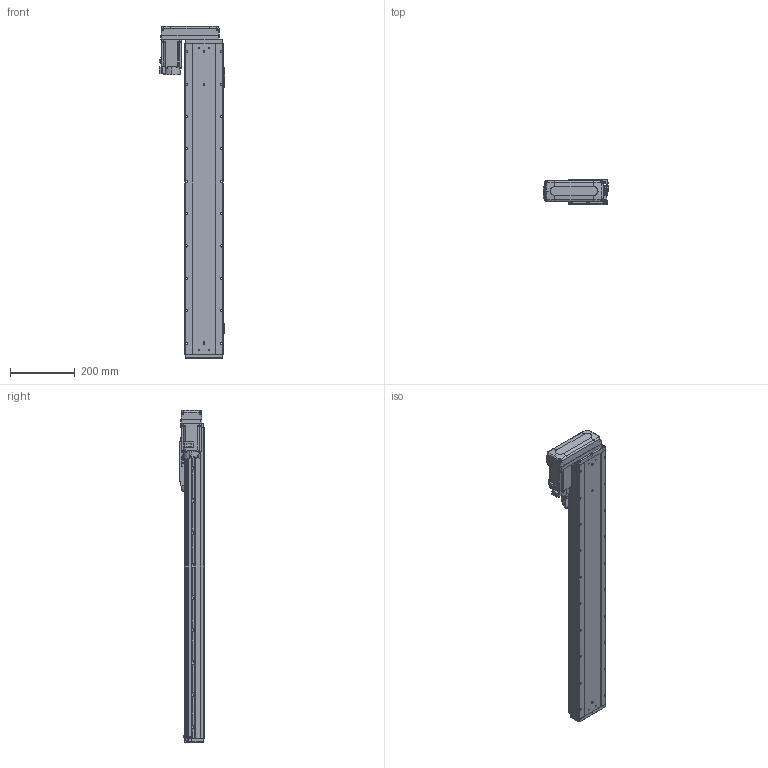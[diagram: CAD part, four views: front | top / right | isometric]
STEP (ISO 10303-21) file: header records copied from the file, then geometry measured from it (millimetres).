
FILE_DESCRIPTION (( 'STEP AP203' ), '1' );
FILE_NAME ('GTH12-750-BR-M40-C4.step', '2023-07-05T00:07:05', ( '微软用户' ), ( '微软中国' ), 'SwSTEP 2.0', 'SolidWorks 2020', '' );
FILE_SCHEMA (( 'CONFIG_CONTROL_DESIGN' ));
Length unit declared in the file: millimetre
Products named in the file (18): GBT 70.1-M3℅6; GBT96.1-2002 3×0.8; GBT 70.1-M5×16; BTH-M3X5X6; GTH120-001_750; GBT 70.3-M3℅8; hg-kn43j_-s100_; GTH120-003; GTH80-022; CTHA86-033_M40B; GTH120-006; GTH80-028; GTH120-027-1_GTH120-027-2; GTH120-004; GTH50-023; GTH12-750-BR-M40-C4; GTH120-013; GTH50-024
Assembly tree (59 placements, depth 2):
  GTH12-750-BR-M40-C4
    GTH120-001_750
    GTH120-003
    GTH120-006
    GTH120-004
    GTH120-013
    GBT 70.1-M3℅6  x14
    GBT 70.1-M5×16  x10
    GBT 70.3-M3℅8  x4
    GTH80-022
    GTH80-028  x2
    GTH50-023  x3
    GTH50-024  x3
    GBT96.1-2002 3×0.8  x6
    BTH-M3X5X6  x8
    hg-kn43j_-s100_
    CTHA86-033_M40B
    GTH120-027-1_GTH120-027-2
Bounding box: 203.5 x 76 x 1025.5 mm (x, y, z)
Volume: 7539315.7 mm3; surface area: 680115.2 mm2
Topology: 61 solids, 61 shells, 2474 faces, 5777 edges, 3545 vertices
Faces by surface type: plane 1270, cylinder 720, cone 296, torus 174, sphere 8, bspline 6
Entity records: 46531 total; most frequent: CARTESIAN_POINT 7882, DIRECTION 7713, ORIENTED_EDGE 7164, EDGE_CURVE 3582, AXIS2_PLACEMENT_3D 2697, LINE 2319, VECTOR 2319, VERTEX_POINT 2266
